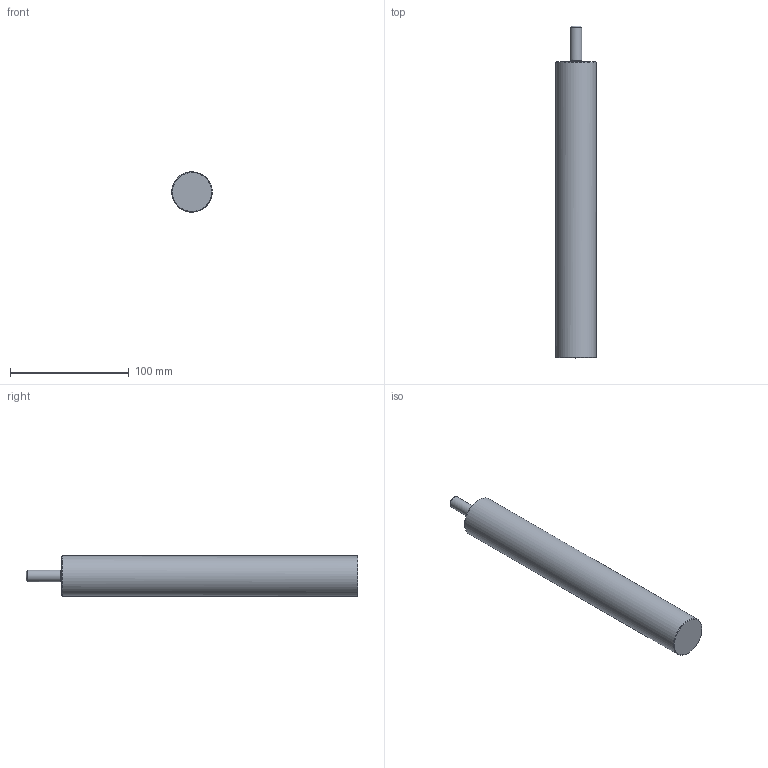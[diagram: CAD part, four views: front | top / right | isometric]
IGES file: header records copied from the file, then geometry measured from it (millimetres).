
Global section: file name: BM01-34D-250L; native system: unknown; preprocessor: unknown; author: unknown; organization: unknown; date: 20231024.134801; units: millimetre
Bounding box: 34 x 280 x 34 mm (x, y, z)
Volume: 229576.1 mm3; surface area: 29399 mm2
Topology: 1 solids, 1 shells, 9 faces, 16 edges, 10 vertices
Faces by surface type: bspline 9
